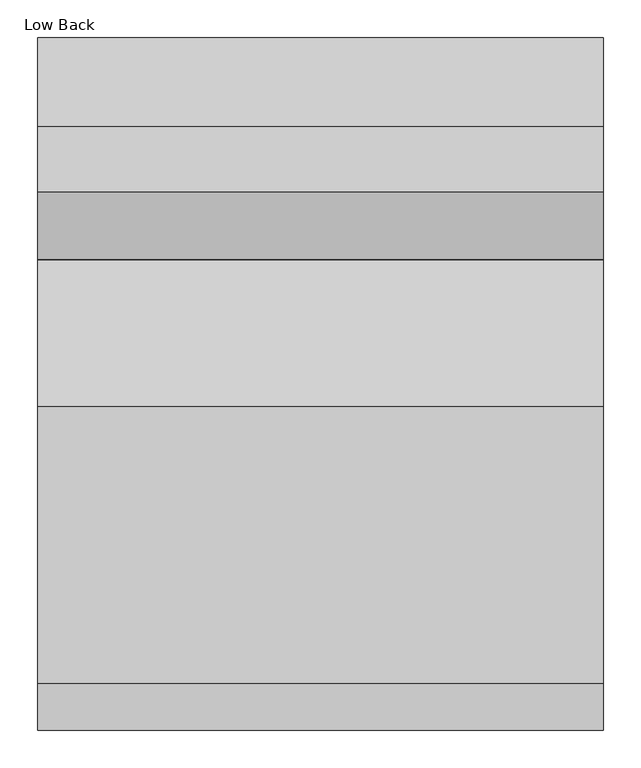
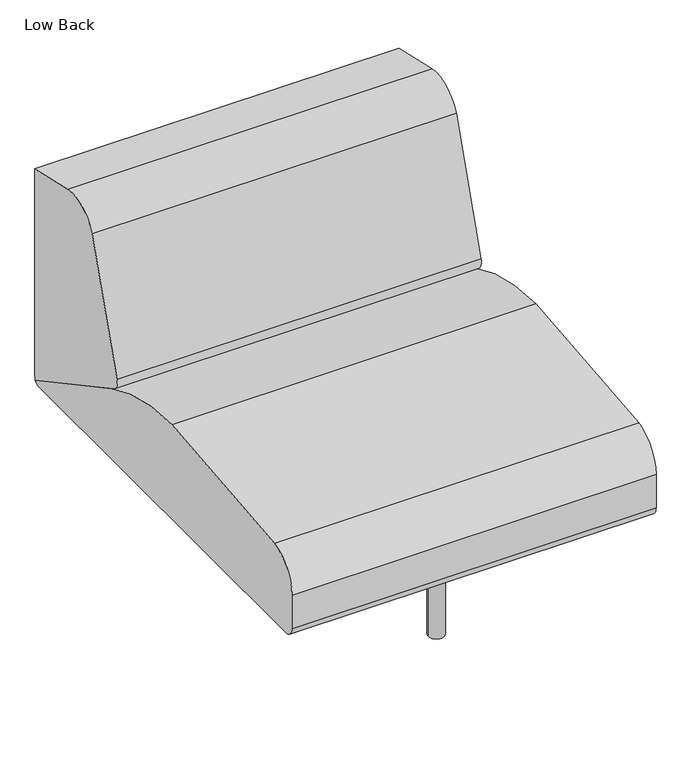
"""IFC4 building model written with IfcOpenShell, lengths in millimetres: furniture geometry, Coalesse_AM_Seating_LoungeChair_Sistema_LegBase_OneSeatConnector : Low Back."""

from ifc_helpers import new_model, si_unit, point, frame, frame_2d, origin, origin_with_axes, place, context, project, spatial, polyline, circle_curve, trimmed, segment, composite_curve, outline, extrude, source, transform, mapped, element, save


def low_back_c2271a61(model_context):
    return source(origin(), model_context, "Body", "SweptSolid", [
        extrude(outline(composite_curve([segment(trimmed(circle_curve(frame_2d((0.0, 335.9943389)), 6.096), [point((-6.096, 335.9943389))], [point((6.096, 335.9943389))], False, "CARTESIAN"), True, "CONTINUOUS"), segment(trimmed(circle_curve(frame_2d((0.0, 335.9943389)), 6.096), [point((6.096, 335.9943389))], [point((-6.096, 335.9943389))], False, "CARTESIAN"), True, "CONTINUOUS")], self_intersect=False)), origin_with_axes(), (0.0, 0.0, 1.0), 4.3662291),
        extrude(outline(composite_curve([segment(trimmed(circle_curve(frame_2d((0.0, -327.2630889)), 6.096), [point((-6.096, -327.2630889))], [point((6.096, -327.2630889))], False, "CARTESIAN"), True, "CONTINUOUS"), segment(trimmed(circle_curve(frame_2d((0.0, -327.2630889)), 6.096), [point((6.096, -327.2630889))], [point((-6.096, -327.2630889))], False, "CARTESIAN"), True, "CONTINUOUS")], self_intersect=False)), origin_with_axes(), (0.0, 0.0, 1.0), 4.3662291),
        extrude(outline(composite_curve([segment(trimmed(circle_curve(frame_2d((157.0399209, -9.5318523)), 3.048), [point((157.0399209, -12.5798523))], [point((153.9919209, -9.5318523))], False, "CARTESIAN"), True, "CONTINUOUS"), segment(polyline([(153.9919209, -9.5318523), (153.9919209, 9.7252509)]), True, "CONTINUOUS"), segment(trimmed(circle_curve(frame_2d((157.1249936, 9.7252509)), 3.1330728), [point((153.9919209, 9.7252509))], [point((157.1249936, 12.8583237))], False, "CARTESIAN"), True, "CONTINUOUS"), segment(polyline([(157.1249936, 12.8583237), (201.7356243, 12.8583237)]), True, "CONTINUOUS"), segment(trimmed(circle_curve(frame_2d((201.7356243, 9.8103237)), 3.048), [point((201.7356243, 12.8583237))], [point((204.7836243, 9.8103237))], False, "CARTESIAN"), True, "CONTINUOUS"), segment(polyline([(204.7836243, 9.8103237), (204.7836243, -9.5318523)]), True, "CONTINUOUS"), segment(trimmed(circle_curve(frame_2d((201.7356243, -9.5318523)), 3.048), [point((204.7836243, -9.5318523))], [point((201.7356243, -12.5798523))], False, "CARTESIAN"), True, "CONTINUOUS"), segment(polyline([(201.7356243, -12.5798523), (157.0399209, -12.5798523)]), True, "CONTINUOUS")], self_intersect=False)), frame((0.0, 222.3519802, 0.0), z_axis=(0.0, 1.0, 0.0), x_axis=(0.0, 0.0, 1.0)), (0.0, 0.0, 1.0), 92.6273161),
        extrude(outline(composite_curve([segment(trimmed(circle_curve(frame_2d((157.0399209, -9.5318523)), 3.048), [point((157.0399209, -12.5798523))], [point((153.9919209, -9.5318523))], False, "CARTESIAN"), True, "CONTINUOUS"), segment(polyline([(153.9919209, -9.5318523), (153.9919209, 9.7252509)]), True, "CONTINUOUS"), segment(trimmed(circle_curve(frame_2d((157.1249936, 9.7252509)), 3.1330728), [point((153.9919209, 9.7252509))], [point((157.1249936, 12.8583237))], False, "CARTESIAN"), True, "CONTINUOUS"), segment(polyline([(157.1249936, 12.8583237), (201.7356243, 12.8583237)]), True, "CONTINUOUS"), segment(trimmed(circle_curve(frame_2d((201.7356243, 9.8103237)), 3.048), [point((201.7356243, 12.8583237))], [point((204.7836243, 9.8103237))], False, "CARTESIAN"), True, "CONTINUOUS"), segment(polyline([(204.7836243, 9.8103237), (204.7836243, -9.5318523)]), True, "CONTINUOUS"), segment(trimmed(circle_curve(frame_2d((201.7356243, -9.5318523)), 3.048), [point((204.7836243, -9.5318523))], [point((201.7356243, -12.5798523))], False, "CARTESIAN"), True, "CONTINUOUS"), segment(polyline([(201.7356243, -12.5798523), (157.0399209, -12.5798523)]), True, "CONTINUOUS")], self_intersect=False)), frame((0.0, -314.9792963, 0.0), z_axis=(0.0, 1.0, 0.0), x_axis=(0.0, 0.0, 1.0)), (0.0, 0.0, 1.0), 92.6273161),
        extrude(outline(composite_curve([segment(polyline([(179.3836606, 22.6505283), (179.3836606, -22.0535686)]), True, "CONTINUOUS"), segment(trimmed(circle_curve(frame_2d((176.3356606, -22.0535686)), 3.048), [point((179.3836606, -22.0535686))], [point((176.3356606, -25.1015686))], False, "CARTESIAN"), True, "CONTINUOUS"), segment(polyline([(176.3356606, -25.1015686), (157.056462, -25.1015686)]), True, "CONTINUOUS"), segment(trimmed(circle_curve(frame_2d((157.056462, -22.0370274)), 3.0645412), [point((157.056462, -25.1015686))], [point((153.9919209, -22.0370274))], False, "CARTESIAN"), True, "CONTINUOUS"), segment(polyline([(153.9919209, -22.0370274), (153.9919209, 22.6505283)]), True, "CONTINUOUS"), segment(trimmed(circle_curve(frame_2d((157.0399209, 22.6505283)), 3.048), [point((153.9919209, 22.6505283))], [point((157.0399209, 25.6985283))], False, "CARTESIAN"), True, "CONTINUOUS"), segment(polyline([(157.0399209, 25.6985283), (176.3356606, 25.6985283)]), True, "CONTINUOUS"), segment(trimmed(circle_curve(frame_2d((176.3356606, 22.6505283)), 3.048), [point((176.3356606, 25.6985283))], [point((179.3836606, 22.6505283))], False, "CARTESIAN"), True, "CONTINUOUS")], self_intersect=False)), frame((0.0, -222.3519802, 0.0), z_axis=(0.0, 1.0, 0.0), x_axis=(0.0, 0.0, 1.0)), (0.0, 0.0, 1.0), 444.7039604),
        extrude(outline(composite_curve([segment(trimmed(circle_curve(frame_2d((0.0, 332.3095741)), 16.51), [point((-16.51, 332.3095741))], [point((16.51, 332.3095741))], False, "CARTESIAN"), True, "CONTINUOUS"), segment(trimmed(circle_curve(frame_2d((0.0, 332.3095741)), 16.51), [point((16.51, 332.3095741))], [point((-16.51, 332.3095741))], False, "CARTESIAN"), True, "CONTINUOUS")], self_intersect=False)), frame((0.0, 0.0, 4.3662291), z_axis=(0.0, 0.0, 1.0), x_axis=(1.0, 0.0, 0.0)), (0.0, 0.0, 1.0), 200.1037709),
        extrude(outline(composite_curve([segment(trimmed(circle_curve(frame_2d((0.396875, -327.5470741)), 16.51), [point((-16.113125, -327.5470741))], [point((16.906875, -327.5470741))], False, "CARTESIAN"), True, "CONTINUOUS"), segment(trimmed(circle_curve(frame_2d((0.396875, -327.5470741)), 16.51), [point((16.906875, -327.5470741))], [point((-16.113125, -327.5470741))], False, "CARTESIAN"), True, "CONTINUOUS")], self_intersect=False)), frame((0.0, 0.0, 4.3662291), z_axis=(0.0, 0.0, 1.0), x_axis=(1.0, 0.0, 0.0)), (0.0, 0.0, 1.0), 200.1037709),
        extrude(outline(composite_curve([segment(polyline([(459.4795619, 673.6041325), (459.4795619, 228.1929806)]), True, "CONTINUOUS"), segment(trimmed(circle_curve(frame_2d((368.0585808, 228.1929806)), 91.4209812), [point((459.4795619, 228.1929806))], [point((458.1072738, 212.4123377))], False, "CARTESIAN"), True, "CONTINUOUS"), segment(polyline([(458.1072738, 212.4123377), (177.4990556, 364.1028799)]), True, "CONTINUOUS"), segment(trimmed(circle_curve(frame_2d((189.5778307, 386.4470781)), 25.4), [point((177.4990556, 364.1028799))], [point((164.9600055, 392.7018911))], False, "CARTESIAN"), True, "CONTINUOUS"), segment(trimmed(circle_curve(frame_2d((1918.112812, -52.7331923)), 1808.8552115), [point((164.9600055, 392.7018911))], [point((254.1018253, 656.5090883))], False, "CARTESIAN"), True, "CONTINUOUS"), segment(trimmed(circle_curve(frame_2d((324.2001043, 626.6314831)), 76.2), [point((254.1018253, 656.5090883))], [point((341.3413746, 700.8784821))], False, "CARTESIAN"), True, "CONTINUOUS"), segment(polyline([(341.3413746, 700.8784821), (459.4795619, 673.6041325)]), True, "CONTINUOUS")], self_intersect=False)), frame((-374.8034773, 0.0, 0.0), z_axis=(1.0, 0.0, 0.0), x_axis=(0.0, 1.0, 0.0)), (0.0, 0.0, 1.0), 752.2863161),
        extrude(outline(composite_curve([segment(trimmed(circle_curve(frame_2d((-438.9184381, 228.2277814)), 22.352), [point((-438.9184381, 205.8757814))], [point((-461.2704381, 228.2277814))], False, "CARTESIAN"), True, "CONTINUOUS"), segment(polyline([(-461.2704381, 228.2277814), (-461.2704381, 301.4421993)]), True, "CONTINUOUS"), segment(trimmed(circle_curve(frame_2d((-385.0704381, 301.4421993)), 76.2), [point((-461.2704381, 301.4421993))], [point((-398.9277015, 376.3716077))], False, "CARTESIAN"), True, "CONTINUOUS"), segment(trimmed(circle_curve(frame_2d((2.2103559, -1792.6740646)), 2205.8265729), [point((-398.9277015, 376.3716077))], [point((-31.1968175, 412.8995185))], False, "CARTESIAN"), True, "CONTINUOUS"), segment(trimmed(circle_curve(frame_2d((-24.5128424, -28.3829182)), 441.333054), [point((-31.1968175, 412.8995185))], [point((184.5757008, 360.2774035))], False, "CARTESIAN"), True, "CONTINUOUS"), segment(polyline([(184.5757008, 360.2774035), (458.1072738, 212.4123377)]), True, "CONTINUOUS"), segment(trimmed(circle_curve(frame_2d((442.3266309, 228.1929806)), 22.3171991), [point((458.1072738, 212.4123377))], [point((442.3266309, 205.8757814))], False, "CARTESIAN"), True, "CONTINUOUS"), segment(polyline([(442.3266309, 205.8757814), (-438.9184381, 205.8757814)]), True, "CONTINUOUS")], self_intersect=False)), frame((-374.8034773, 0.0, 0.0), z_axis=(1.0, 0.0, 0.0), x_axis=(0.0, 1.0, 0.0)), (0.0, 0.0, 1.0), 752.2863161),
    ])


if __name__ == "__main__":
    model = new_model("IFC4")
    model_context = context("Model", 3, world=origin())
    ifc_project = project(units=[si_unit("LENGTHUNIT", "METRE", prefix="MILLI")], contexts=[model_context])
    site = spatial("IfcSite", under=ifc_project)
    building = spatial("IfcBuilding", under=site)
    placement = place(None, origin())
    low_back_shape = low_back_c2271a61(model_context)
    element("IfcFurniture", 1, ObjectType="Coalesse_AM_Seating_LoungeChair_Sistema_LegBase_OneSeatConnector : Low Back", at=placement, inside=building, context=model_context, shape_type="MappedRepresentation", body=[
        mapped(low_back_shape, transform((0.0, 0.0, 0.0), x_axis=(1.0, 0.0, 0.0), y_axis=(0.0, 1.0, 0.0), z_axis=(0.0, 0.0, 1.0))),
    ])
    save(model, "model.ifc")
